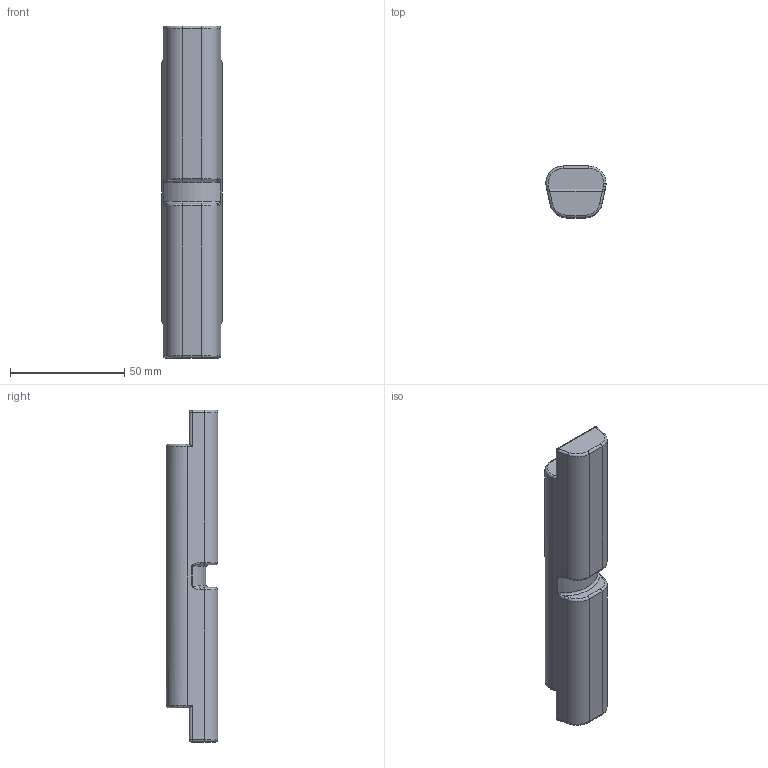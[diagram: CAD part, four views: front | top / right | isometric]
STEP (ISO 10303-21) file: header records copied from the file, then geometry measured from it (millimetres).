
FILE_DESCRIPTION (( 'STEP AP203' ), '1' );
FILE_NAME ('handle_cut.STEP', '2026-02-26T11:28:14', ( '' ), ( '' ), 'SwSTEP 2.0', 'SolidWorks 2025', '' );
FILE_SCHEMA (( 'CONFIG_CONTROL_DESIGN' ));
Length unit declared in the file: millimetre
Products named in the file (1): handle_cut
Bounding box: 26.3 x 22.5 x 145 mm (x, y, z)
Volume: 65177.2 mm3; surface area: 12400.7 mm2
Topology: 1 solids, 1 shells, 80 faces, 195 edges, 113 vertices
Faces by surface type: cylinder 36, plane 18, torus 16, bspline 6, sphere 4
Entity records: 2629 total; most frequent: CARTESIAN_POINT 723, DIRECTION 408, ORIENTED_EDGE 378, EDGE_CURVE 189, AXIS2_PLACEMENT_3D 164, VERTEX_POINT 111, CIRCLE 89, VECTOR 80
